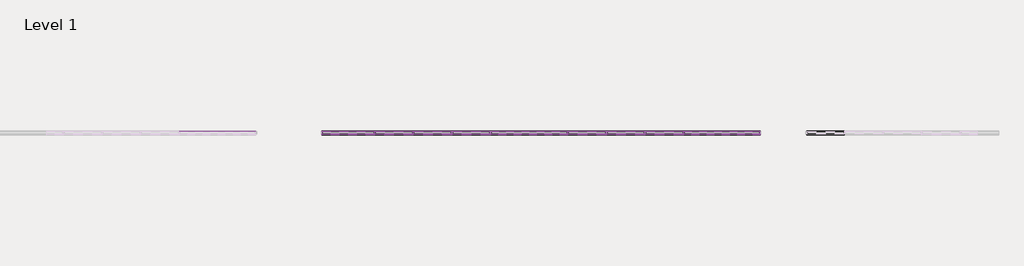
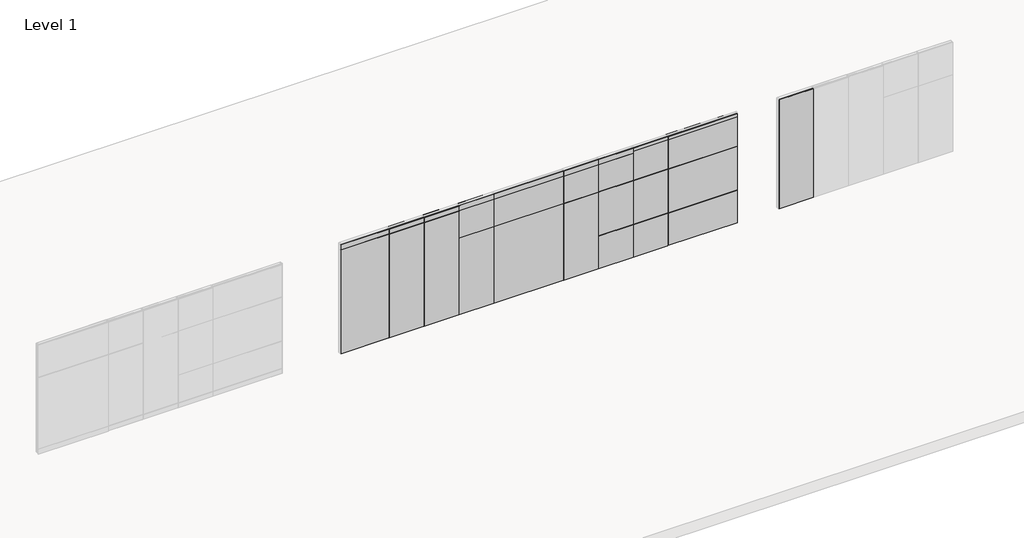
# One storey, part 8 of 22: 106 proxies.
"""IFC4 building model written with IfcOpenShell, lengths in millimetres."""

from ifc_helpers import new_model, si_unit, origin, place, context, project, spatial, transform, mapped, element, save
from components import fascia_teknion_ceiling_and_base_fpb1_33541465, fascia_teknion_ceiling_and_base_fpb1_b7746e3f, fascia_teknion_ceiling_and_base_fpb1_8b0997c1, fascia_teknion_ceiling_and_base_fpb1_fca0640a, fascia_teknion_ceiling_and_base_fpb1_086ac043, fascia_teknion_ceiling_and_base_fpc_82e6e8aa, fascia_teknion_ceiling_and_base_fpb1_658eb9e8, fascia_teknion_ceiling_and_base_fpb1_6ffdd3c4, fascia_teknion_ceiling_and_base_fpc_d1d4114e, fascia_teknion_ceiling_and_base_fpb1_9cc94717, frame_teknion_horizontal_rail_5872ae1a, frame_teknion_horizontal_rail_46ee653b, frame_teknion_horizontal_rail_3334b302, frame_teknion_horizontal_rail_5dd37d62, frame_teknion_horizontal_rail_fbfe6c54, full_c2ac7fb8, full_f94a2816, level_i_a4eb09b2, level_i_215115a4, level_ii_5838736d, level_ii_c8f04d20, level_ii_2f074b98, level_ii_82d1d981, level_iii_7086e34a, level_iii_17d9b208, monolithic_level_i_61e75e15, monolithic_level_i_c3871bc0, monolithic_level_i_05dcc295, monolithic_level_i_604a00d2, segmented_level_i_b619f2b0, segmented_level_i_812e5143, segmented_level_ii_95ed46a7, segmented_monolithic_level_i_26a9d159, segmented_monolithic_level_i_864a3625, segmented_monolithic_level_ii_77ebe4eb, segmented_monolithic_level_ii_a618ab00, working_wall_monolithic_level_i_ddfac440, working_wall_monolithic_level_i_dfc08b04, working_wall_monolithic_level_iii_353f8d2e, segmented_level_ii_6dac37f0

model = new_model("IFC4")

# Units and contexts
model_context = context("Model", 3, world=origin())
ifc_project = project(units=[si_unit("LENGTHUNIT", "METRE", prefix="MILLI")], contexts=[model_context])

# Site, building, storey
site = spatial("IfcSite", under=ifc_project)
building = spatial("IfcBuilding", under=site)
storey = spatial("IfcBuildingStorey", under=building, Name="Level 1", Elevation=0.0)

# Proxies
placement = place(None, origin())
fascia_teknion_ceiling_and_base_fpb1_shape = fascia_teknion_ceiling_and_base_fpb1_33541465(model_context)
element("IfcBuildingElementProxy", 1, Name="Fascia-Teknion-Ceiling_and_Base : FPB1", ObjectType="Fascia-Teknion-Ceiling_and_Base : FPB1", at=placement, inside=storey, context=model_context, shape_type="MappedRepresentation", body=[
    mapped(fascia_teknion_ceiling_and_base_fpb1_shape, transform((-52573.3738225, 1843.3402105, 15.875), x_axis=(1.0, 0.0, 0.0), y_axis=(0.0, 1.0, 0.0), z_axis=(0.0, 0.0, 1.0))),
])
fascia_teknion_ceiling_and_base_fpb1_2_shape = fascia_teknion_ceiling_and_base_fpb1_b7746e3f(model_context)
element("IfcBuildingElementProxy", 2, Name="Fascia-Teknion-Ceiling_and_Base : FPB1", ObjectType="Fascia-Teknion-Ceiling_and_Base : FPB1", at=placement, inside=storey, context=model_context, shape_type="MappedRepresentation", body=[
    mapped(fascia_teknion_ceiling_and_base_fpb1_2_shape, transform((-55025.7636663, 1843.3402105, 15.875), x_axis=(1.0, 0.0, 0.0), y_axis=(0.0, 1.0, 0.0), z_axis=(0.0, 0.0, 1.0))),
])
fascia_teknion_ceiling_and_base_fpb1_3_shape = fascia_teknion_ceiling_and_base_fpb1_8b0997c1(model_context)
element("IfcBuildingElementProxy", 3, Name="Fascia-Teknion-Ceiling_and_Base : FPB1", ObjectType="Fascia-Teknion-Ceiling_and_Base : FPB1", at=placement, inside=storey, context=model_context, shape_type="MappedRepresentation", body=[
    mapped(fascia_teknion_ceiling_and_base_fpb1_3_shape, transform((-63876.3738225, 1843.3402105, 15.875), x_axis=(1.0, 0.0, 0.0), y_axis=(0.0, 1.0, 0.0), z_axis=(0.0, 0.0, 1.0))),
])
fascia_teknion_ceiling_and_base_fpb1_4_shape = fascia_teknion_ceiling_and_base_fpb1_fca0640a(model_context)
element("IfcBuildingElementProxy", 4, Name="Fascia-Teknion-Ceiling_and_Base : FPB1", ObjectType="Fascia-Teknion-Ceiling_and_Base : FPB1", at=placement, inside=storey, context=model_context, shape_type="MappedRepresentation", body=[
    mapped(fascia_teknion_ceiling_and_base_fpb1_4_shape, transform((-62791.1687444, 1843.3402105, 15.875), x_axis=(1.0, 0.0, 0.0), y_axis=(0.0, 1.0, 0.0), z_axis=(0.0, 0.0, 1.0))),
])
element("IfcBuildingElementProxy", 5, Name="Fascia-Teknion-Ceiling_and_Base : FPB1", ObjectType="Fascia-Teknion-Ceiling_and_Base : FPB1", at=placement, inside=storey, context=model_context, shape_type="MappedRepresentation", body=[
    mapped(fascia_teknion_ceiling_and_base_fpb1_4_shape, transform((-61876.7687444, 1843.3402105, 15.875), x_axis=(1.0, 0.0, 0.0), y_axis=(0.0, 1.0, 0.0), z_axis=(0.0, 0.0, 1.0))),
])
element("IfcBuildingElementProxy", 6, Name="Fascia-Teknion-Ceiling_and_Base : FPB1", ObjectType="Fascia-Teknion-Ceiling_and_Base : FPB1", at=placement, inside=storey, context=model_context, shape_type="MappedRepresentation", body=[
    mapped(fascia_teknion_ceiling_and_base_fpb1_4_shape, transform((-60962.3687444, 1843.3402105, 15.875), x_axis=(1.0, 0.0, 0.0), y_axis=(0.0, 1.0, 0.0), z_axis=(0.0, 0.0, 1.0))),
])
element("IfcBuildingElementProxy", 7, Name="Fascia-Teknion-Ceiling_and_Base : FPB1", ObjectType="Fascia-Teknion-Ceiling_and_Base : FPB1", at=placement, inside=storey, context=model_context, shape_type="MappedRepresentation", body=[
    mapped(fascia_teknion_ceiling_and_base_fpb1_4_shape, transform((-58219.1687444, 1843.3402105, 15.875), x_axis=(1.0, 0.0, 0.0), y_axis=(0.0, 1.0, 0.0), z_axis=(0.0, 0.0, 1.0))),
])
element("IfcBuildingElementProxy", 8, Name="Fascia-Teknion-Ceiling_and_Base : FPB1", ObjectType="Fascia-Teknion-Ceiling_and_Base : FPB1", at=placement, inside=storey, context=model_context, shape_type="MappedRepresentation", body=[
    mapped(fascia_teknion_ceiling_and_base_fpb1_4_shape, transform((-57304.7687444, 1843.3402105, 15.875), x_axis=(1.0, 0.0, 0.0), y_axis=(0.0, 1.0, 0.0), z_axis=(0.0, 0.0, 1.0))),
])
element("IfcBuildingElementProxy", 9, Name="Fascia-Teknion-Ceiling_and_Base : FPB1", ObjectType="Fascia-Teknion-Ceiling_and_Base : FPB1", at=placement, inside=storey, context=model_context, shape_type="MappedRepresentation", body=[
    mapped(fascia_teknion_ceiling_and_base_fpb1_4_shape, transform((-56390.3687444, 1843.3402105, 15.875), x_axis=(1.0, 0.0, 0.0), y_axis=(0.0, 1.0, 0.0), z_axis=(0.0, 0.0, 1.0))),
])
fascia_teknion_ceiling_and_base_fpb1_5_shape = fascia_teknion_ceiling_and_base_fpb1_086ac043(model_context)
element("IfcBuildingElementProxy", 10, Name="Fascia-Teknion-Ceiling_and_Base : FPB1", ObjectType="Fascia-Teknion-Ceiling_and_Base : FPB1", at=placement, inside=storey, context=model_context, shape_type="MappedRepresentation", body=[
    mapped(fascia_teknion_ceiling_and_base_fpb1_5_shape, transform((-59590.7687444, 1843.3402105, 15.875), x_axis=(1.0, 0.0, 0.0), y_axis=(0.0, 1.0, 0.0), z_axis=(0.0, 0.0, 1.0))),
])
fascia_teknion_ceiling_and_base_fpc_shape = fascia_teknion_ceiling_and_base_fpc_82e6e8aa(model_context)
element("IfcBuildingElementProxy", 11, Name="Fascia-Teknion-Ceiling_and_Base : FPC", ObjectType="Fascia-Teknion-Ceiling_and_Base : FPC", at=placement, inside=storey, context=model_context, shape_type="MappedRepresentation", body=[
    mapped(fascia_teknion_ceiling_and_base_fpc_shape, transform((-63876.3738225, 1781.3642105, 2900.045), x_axis=(1.0, 0.0, 0.0), y_axis=(0.0, 1.0, 0.0), z_axis=(0.0, 0.0, 1.0))),
])
fascia_teknion_ceiling_and_base_fpb1_6_shape = fascia_teknion_ceiling_and_base_fpb1_658eb9e8(model_context)
element("IfcBuildingElementProxy", 12, Name="Fascia-Teknion-Ceiling_and_Base : FPC", ObjectType="Fascia-Teknion-Ceiling_and_Base : FPC", at=placement, inside=storey, context=model_context, shape_type="MappedRepresentation", body=[
    mapped(fascia_teknion_ceiling_and_base_fpb1_6_shape, transform((-62791.1687444, 1781.3642105, 2900.045), x_axis=(1.0, 0.0, 0.0), y_axis=(0.0, 1.0, 0.0), z_axis=(0.0, 0.0, 1.0))),
])
element("IfcBuildingElementProxy", 13, Name="Fascia-Teknion-Ceiling_and_Base : FPC", ObjectType="Fascia-Teknion-Ceiling_and_Base : FPC", at=placement, inside=storey, context=model_context, shape_type="MappedRepresentation", body=[
    mapped(fascia_teknion_ceiling_and_base_fpb1_6_shape, transform((-61876.7687444, 1781.3642105, 2900.045), x_axis=(1.0, 0.0, 0.0), y_axis=(0.0, 1.0, 0.0), z_axis=(0.0, 0.0, 1.0))),
])
element("IfcBuildingElementProxy", 14, Name="Fascia-Teknion-Ceiling_and_Base : FPC", ObjectType="Fascia-Teknion-Ceiling_and_Base : FPC", at=placement, inside=storey, context=model_context, shape_type="MappedRepresentation", body=[
    mapped(fascia_teknion_ceiling_and_base_fpb1_6_shape, transform((-60962.3687444, 1781.3642105, 2900.045), x_axis=(1.0, 0.0, 0.0), y_axis=(0.0, 1.0, 0.0), z_axis=(0.0, 0.0, 1.0))),
])
element("IfcBuildingElementProxy", 15, Name="Fascia-Teknion-Ceiling_and_Base : FPC", ObjectType="Fascia-Teknion-Ceiling_and_Base : FPC", at=placement, inside=storey, context=model_context, shape_type="MappedRepresentation", body=[
    mapped(fascia_teknion_ceiling_and_base_fpb1_6_shape, transform((-58219.1687444, 1781.3642105, 2900.045), x_axis=(1.0, 0.0, 0.0), y_axis=(0.0, 1.0, 0.0), z_axis=(0.0, 0.0, 1.0))),
])
element("IfcBuildingElementProxy", 16, Name="Fascia-Teknion-Ceiling_and_Base : FPC", ObjectType="Fascia-Teknion-Ceiling_and_Base : FPC", at=placement, inside=storey, context=model_context, shape_type="MappedRepresentation", body=[
    mapped(fascia_teknion_ceiling_and_base_fpb1_6_shape, transform((-57304.7687444, 1781.3642105, 2900.045), x_axis=(1.0, 0.0, 0.0), y_axis=(0.0, 1.0, 0.0), z_axis=(0.0, 0.0, 1.0))),
])
fascia_teknion_ceiling_and_base_fpb1_7_shape = fascia_teknion_ceiling_and_base_fpb1_6ffdd3c4(model_context)
element("IfcBuildingElementProxy", 17, Name="Fascia-Teknion-Ceiling_and_Base : FPC", ObjectType="Fascia-Teknion-Ceiling_and_Base : FPC", at=placement, inside=storey, context=model_context, shape_type="MappedRepresentation", body=[
    mapped(fascia_teknion_ceiling_and_base_fpb1_7_shape, transform((-59590.7687444, 1781.3642105, 2900.045), x_axis=(1.0, 0.0, 0.0), y_axis=(0.0, 1.0, 0.0), z_axis=(0.0, 0.0, 1.0))),
])
element("IfcBuildingElementProxy", 18, Name="Fascia-Teknion-Ceiling_and_Base : FPC", ObjectType="Fascia-Teknion-Ceiling_and_Base : FPC", at=placement, inside=storey, context=model_context, shape_type="MappedRepresentation", body=[
    mapped(fascia_teknion_ceiling_and_base_fpb1_2_shape, transform((-55025.7636663, 1843.3402105, 2950.845), x_axis=(1.0, 0.0, 0.0), y_axis=(0.0, 1.0, 0.0), z_axis=(0.0, 0.0, 1.0))),
])
fascia_teknion_ceiling_and_base_fpc_2_shape = fascia_teknion_ceiling_and_base_fpc_d1d4114e(model_context)
element("IfcBuildingElementProxy", 19, Name="Fascia-Teknion-Ceiling_and_Base : FPC", ObjectType="Fascia-Teknion-Ceiling_and_Base : FPC", at=placement, inside=storey, context=model_context, shape_type="MappedRepresentation", body=[
    mapped(fascia_teknion_ceiling_and_base_fpc_2_shape, transform((-55025.7636663, 1781.3642105, 2950.845), x_axis=(1.0, 0.0, 0.0), y_axis=(0.0, 1.0, 0.0), z_axis=(0.0, 0.0, 1.0))),
])
element("IfcBuildingElementProxy", 20, Name="Fascia-Teknion-Ceiling_and_Base : FPC", ObjectType="Fascia-Teknion-Ceiling_and_Base : FPC", at=placement, inside=storey, context=model_context, shape_type="MappedRepresentation", body=[
    mapped(fascia_teknion_ceiling_and_base_fpb1_3_shape, transform((-63876.3738225, 1843.3402105, 2950.845), x_axis=(1.0, 0.0, 0.0), y_axis=(0.0, 1.0, 0.0), z_axis=(0.0, 0.0, 1.0))),
])
element("IfcBuildingElementProxy", 21, Name="Fascia-Teknion-Ceiling_and_Base : FPC", ObjectType="Fascia-Teknion-Ceiling_and_Base : FPC", at=placement, inside=storey, context=model_context, shape_type="MappedRepresentation", body=[
    mapped(fascia_teknion_ceiling_and_base_fpb1_4_shape, transform((-62791.1687444, 1843.3402105, 2950.845), x_axis=(1.0, 0.0, 0.0), y_axis=(0.0, 1.0, 0.0), z_axis=(0.0, 0.0, 1.0))),
])
element("IfcBuildingElementProxy", 22, Name="Fascia-Teknion-Ceiling_and_Base : FPC", ObjectType="Fascia-Teknion-Ceiling_and_Base : FPC", at=placement, inside=storey, context=model_context, shape_type="MappedRepresentation", body=[
    mapped(fascia_teknion_ceiling_and_base_fpb1_4_shape, transform((-61876.7687444, 1843.3402105, 2950.845), x_axis=(1.0, 0.0, 0.0), y_axis=(0.0, 1.0, 0.0), z_axis=(0.0, 0.0, 1.0))),
])
element("IfcBuildingElementProxy", 23, Name="Fascia-Teknion-Ceiling_and_Base : FPC", ObjectType="Fascia-Teknion-Ceiling_and_Base : FPC", at=placement, inside=storey, context=model_context, shape_type="MappedRepresentation", body=[
    mapped(fascia_teknion_ceiling_and_base_fpb1_4_shape, transform((-60962.3687444, 1843.3402105, 2950.845), x_axis=(1.0, 0.0, 0.0), y_axis=(0.0, 1.0, 0.0), z_axis=(0.0, 0.0, 1.0))),
])
element("IfcBuildingElementProxy", 24, Name="Fascia-Teknion-Ceiling_and_Base : FPC", ObjectType="Fascia-Teknion-Ceiling_and_Base : FPC", at=placement, inside=storey, context=model_context, shape_type="MappedRepresentation", body=[
    mapped(fascia_teknion_ceiling_and_base_fpb1_4_shape, transform((-58219.1687444, 1843.3402105, 2950.845), x_axis=(1.0, 0.0, 0.0), y_axis=(0.0, 1.0, 0.0), z_axis=(0.0, 0.0, 1.0))),
])
element("IfcBuildingElementProxy", 25, Name="Fascia-Teknion-Ceiling_and_Base : FPC", ObjectType="Fascia-Teknion-Ceiling_and_Base : FPC", at=placement, inside=storey, context=model_context, shape_type="MappedRepresentation", body=[
    mapped(fascia_teknion_ceiling_and_base_fpb1_4_shape, transform((-57304.7687444, 1843.3402105, 2950.845), x_axis=(1.0, 0.0, 0.0), y_axis=(0.0, 1.0, 0.0), z_axis=(0.0, 0.0, 1.0))),
])
element("IfcBuildingElementProxy", 26, Name="Fascia-Teknion-Ceiling_and_Base : FPC", ObjectType="Fascia-Teknion-Ceiling_and_Base : FPC", at=placement, inside=storey, context=model_context, shape_type="MappedRepresentation", body=[
    mapped(fascia_teknion_ceiling_and_base_fpb1_4_shape, transform((-56390.3687444, 1843.3402105, 2950.845), x_axis=(1.0, 0.0, 0.0), y_axis=(0.0, 1.0, 0.0), z_axis=(0.0, 0.0, 1.0))),
])
element("IfcBuildingElementProxy", 27, Name="Fascia-Teknion-Ceiling_and_Base : FPC", ObjectType="Fascia-Teknion-Ceiling_and_Base : FPC", at=placement, inside=storey, context=model_context, shape_type="MappedRepresentation", body=[
    mapped(fascia_teknion_ceiling_and_base_fpb1_5_shape, transform((-59590.7687444, 1843.3402105, 2950.845), x_axis=(1.0, 0.0, 0.0), y_axis=(0.0, 1.0, 0.0), z_axis=(0.0, 0.0, 1.0))),
])
fascia_teknion_ceiling_and_base_fpb1_8_shape = fascia_teknion_ceiling_and_base_fpb1_9cc94717(model_context)
element("IfcBuildingElementProxy", 28, Name="Fascia-Teknion-Ceiling_and_Base : FPC", ObjectType="Fascia-Teknion-Ceiling_and_Base : FPC", at=placement, inside=storey, context=model_context, shape_type="MappedRepresentation", body=[
    mapped(fascia_teknion_ceiling_and_base_fpb1_8_shape, transform((-56390.3687444, 1781.3642105, 2950.845), x_axis=(1.0, 0.0, 0.0), y_axis=(0.0, 1.0, 0.0), z_axis=(0.0, 0.0, 1.0))),
])
frame_teknion_horizontal_rail_shape = frame_teknion_horizontal_rail_5872ae1a(model_context)
element("IfcBuildingElementProxy", 29, Name="Frame-Teknion-Horizontal_Rail : FPKK", ObjectType="Frame-Teknion-Horizontal_Rail : FPKK", at=placement, inside=storey, context=model_context, shape_type="MappedRepresentation", body=[
    mapped(frame_teknion_horizontal_rail_shape, transform((-52573.3738225, 1812.3522105, 151.257), x_axis=(1.0, 0.0, 0.0), y_axis=(0.0, 1.0, 0.0), z_axis=(0.0, 0.0, 1.0))),
])
frame_teknion_horizontal_rail_2_shape = frame_teknion_horizontal_rail_46ee653b(model_context)
element("IfcBuildingElementProxy", 30, Name="Frame-Teknion-Horizontal_Rail : FPKK", ObjectType="Frame-Teknion-Horizontal_Rail : FPKK", at=placement, inside=storey, context=model_context, shape_type="MappedRepresentation", body=[
    mapped(frame_teknion_horizontal_rail_2_shape, transform((-62791.1687444, 1812.3522105, 2136.775), x_axis=(1.0, 0.0, 0.0), y_axis=(0.0, 1.0, 0.0), z_axis=(0.0, 0.0, 1.0))),
])
element("IfcBuildingElementProxy", 31, Name="Frame-Teknion-Horizontal_Rail : FPKK", ObjectType="Frame-Teknion-Horizontal_Rail : FPKK", at=placement, inside=storey, context=model_context, shape_type="MappedRepresentation", body=[
    mapped(frame_teknion_horizontal_rail_2_shape, transform((-62791.1687444, 1812.3522105, 100.457), x_axis=(1.0, 0.0, 0.0), y_axis=(0.0, 1.0, 0.0), z_axis=(0.0, 0.0, 1.0))),
])
element("IfcBuildingElementProxy", 32, Name="Frame-Teknion-Horizontal_Rail : FPKK", ObjectType="Frame-Teknion-Horizontal_Rail : FPKK", at=placement, inside=storey, context=model_context, shape_type="MappedRepresentation", body=[
    mapped(frame_teknion_horizontal_rail_2_shape, transform((-62791.1687444, 1812.3522105, 2898.3305), x_axis=(1.0, 0.0, 0.0), y_axis=(0.0, 1.0, 0.0), z_axis=(0.0, 0.0, 1.0))),
])
element("IfcBuildingElementProxy", 33, Name="Frame-Teknion-Horizontal_Rail : FPKK", ObjectType="Frame-Teknion-Horizontal_Rail : FPKK", at=placement, inside=storey, context=model_context, shape_type="MappedRepresentation", body=[
    mapped(frame_teknion_horizontal_rail_2_shape, transform((-61876.7687444, 1812.3522105, 917.575), x_axis=(1.0, 0.0, 0.0), y_axis=(0.0, 1.0, 0.0), z_axis=(0.0, 0.0, 1.0))),
])
element("IfcBuildingElementProxy", 34, Name="Frame-Teknion-Horizontal_Rail : FPKK", ObjectType="Frame-Teknion-Horizontal_Rail : FPKK", at=placement, inside=storey, context=model_context, shape_type="MappedRepresentation", body=[
    mapped(frame_teknion_horizontal_rail_2_shape, transform((-61876.7687444, 1812.3522105, 2136.775), x_axis=(1.0, 0.0, 0.0), y_axis=(0.0, 1.0, 0.0), z_axis=(0.0, 0.0, 1.0))),
])
element("IfcBuildingElementProxy", 35, Name="Frame-Teknion-Horizontal_Rail : FPKK", ObjectType="Frame-Teknion-Horizontal_Rail : FPKK", at=placement, inside=storey, context=model_context, shape_type="MappedRepresentation", body=[
    mapped(frame_teknion_horizontal_rail_2_shape, transform((-61876.7687444, 1812.3522105, 100.457), x_axis=(1.0, 0.0, 0.0), y_axis=(0.0, 1.0, 0.0), z_axis=(0.0, 0.0, 1.0))),
])
element("IfcBuildingElementProxy", 36, Name="Frame-Teknion-Horizontal_Rail : FPKK", ObjectType="Frame-Teknion-Horizontal_Rail : FPKK", at=placement, inside=storey, context=model_context, shape_type="MappedRepresentation", body=[
    mapped(frame_teknion_horizontal_rail_2_shape, transform((-61876.7687444, 1812.3522105, 2898.3305), x_axis=(1.0, 0.0, 0.0), y_axis=(0.0, 1.0, 0.0), z_axis=(0.0, 0.0, 1.0))),
])
element("IfcBuildingElementProxy", 37, Name="Frame-Teknion-Horizontal_Rail : FPKK", ObjectType="Frame-Teknion-Horizontal_Rail : FPKK", at=placement, inside=storey, context=model_context, shape_type="MappedRepresentation", body=[
    mapped(frame_teknion_horizontal_rail_2_shape, transform((-60962.3687444, 1812.3522105, 2136.775), x_axis=(1.0, 0.0, 0.0), y_axis=(0.0, 1.0, 0.0), z_axis=(0.0, 0.0, 1.0))),
])
element("IfcBuildingElementProxy", 38, Name="Frame-Teknion-Horizontal_Rail : FPKK", ObjectType="Frame-Teknion-Horizontal_Rail : FPKK", at=placement, inside=storey, context=model_context, shape_type="MappedRepresentation", body=[
    mapped(frame_teknion_horizontal_rail_2_shape, transform((-60962.3687444, 1812.3522105, 100.457), x_axis=(1.0, 0.0, 0.0), y_axis=(0.0, 1.0, 0.0), z_axis=(0.0, 0.0, 1.0))),
])
element("IfcBuildingElementProxy", 39, Name="Frame-Teknion-Horizontal_Rail : FPKK", ObjectType="Frame-Teknion-Horizontal_Rail : FPKK", at=placement, inside=storey, context=model_context, shape_type="MappedRepresentation", body=[
    mapped(frame_teknion_horizontal_rail_2_shape, transform((-60962.3687444, 1812.3522105, 2898.3305), x_axis=(1.0, 0.0, 0.0), y_axis=(0.0, 1.0, 0.0), z_axis=(0.0, 0.0, 1.0))),
])
element("IfcBuildingElementProxy", 40, Name="Frame-Teknion-Horizontal_Rail : FPKK", ObjectType="Frame-Teknion-Horizontal_Rail : FPKK", at=placement, inside=storey, context=model_context, shape_type="MappedRepresentation", body=[
    mapped(frame_teknion_horizontal_rail_2_shape, transform((-58219.1687444, 1812.3522105, 917.575), x_axis=(1.0, 0.0, 0.0), y_axis=(0.0, 1.0, 0.0), z_axis=(0.0, 0.0, 1.0))),
])
element("IfcBuildingElementProxy", 41, Name="Frame-Teknion-Horizontal_Rail : FPKK", ObjectType="Frame-Teknion-Horizontal_Rail : FPKK", at=placement, inside=storey, context=model_context, shape_type="MappedRepresentation", body=[
    mapped(frame_teknion_horizontal_rail_2_shape, transform((-58219.1687444, 1812.3522105, 2136.775), x_axis=(1.0, 0.0, 0.0), y_axis=(0.0, 1.0, 0.0), z_axis=(0.0, 0.0, 1.0))),
])
element("IfcBuildingElementProxy", 42, Name="Frame-Teknion-Horizontal_Rail : FPKK", ObjectType="Frame-Teknion-Horizontal_Rail : FPKK", at=placement, inside=storey, context=model_context, shape_type="MappedRepresentation", body=[
    mapped(frame_teknion_horizontal_rail_2_shape, transform((-58219.1687444, 1812.3522105, 100.457), x_axis=(1.0, 0.0, 0.0), y_axis=(0.0, 1.0, 0.0), z_axis=(0.0, 0.0, 1.0))),
])
element("IfcBuildingElementProxy", 43, Name="Frame-Teknion-Horizontal_Rail : FPKK", ObjectType="Frame-Teknion-Horizontal_Rail : FPKK", at=placement, inside=storey, context=model_context, shape_type="MappedRepresentation", body=[
    mapped(frame_teknion_horizontal_rail_2_shape, transform((-58219.1687444, 1812.3522105, 2898.3305), x_axis=(1.0, 0.0, 0.0), y_axis=(0.0, 1.0, 0.0), z_axis=(0.0, 0.0, 1.0))),
])
element("IfcBuildingElementProxy", 44, Name="Frame-Teknion-Horizontal_Rail : FPKK", ObjectType="Frame-Teknion-Horizontal_Rail : FPKK", at=placement, inside=storey, context=model_context, shape_type="MappedRepresentation", body=[
    mapped(frame_teknion_horizontal_rail_2_shape, transform((-57304.7687444, 1812.3522105, 917.575), x_axis=(1.0, 0.0, 0.0), y_axis=(0.0, 1.0, 0.0), z_axis=(0.0, 0.0, 1.0))),
])
element("IfcBuildingElementProxy", 45, Name="Frame-Teknion-Horizontal_Rail : FPKK", ObjectType="Frame-Teknion-Horizontal_Rail : FPKK", at=placement, inside=storey, context=model_context, shape_type="MappedRepresentation", body=[
    mapped(frame_teknion_horizontal_rail_2_shape, transform((-57304.7687444, 1812.3522105, 2136.775), x_axis=(1.0, 0.0, 0.0), y_axis=(0.0, 1.0, 0.0), z_axis=(0.0, 0.0, 1.0))),
])
element("IfcBuildingElementProxy", 46, Name="Frame-Teknion-Horizontal_Rail : FPKK", ObjectType="Frame-Teknion-Horizontal_Rail : FPKK", at=placement, inside=storey, context=model_context, shape_type="MappedRepresentation", body=[
    mapped(frame_teknion_horizontal_rail_2_shape, transform((-57304.7687444, 1812.3522105, 100.457), x_axis=(1.0, 0.0, 0.0), y_axis=(0.0, 1.0, 0.0), z_axis=(0.0, 0.0, 1.0))),
])
element("IfcBuildingElementProxy", 47, Name="Frame-Teknion-Horizontal_Rail : FPKK", ObjectType="Frame-Teknion-Horizontal_Rail : FPKK", at=placement, inside=storey, context=model_context, shape_type="MappedRepresentation", body=[
    mapped(frame_teknion_horizontal_rail_2_shape, transform((-57304.7687444, 1812.3522105, 2898.3305), x_axis=(1.0, 0.0, 0.0), y_axis=(0.0, 1.0, 0.0), z_axis=(0.0, 0.0, 1.0))),
])
element("IfcBuildingElementProxy", 48, Name="Frame-Teknion-Horizontal_Rail : FPKK", ObjectType="Frame-Teknion-Horizontal_Rail : FPKK", at=placement, inside=storey, context=model_context, shape_type="MappedRepresentation", body=[
    mapped(frame_teknion_horizontal_rail_2_shape, transform((-56390.3687444, 1812.3522105, 917.575), x_axis=(1.0, 0.0, 0.0), y_axis=(0.0, 1.0, 0.0), z_axis=(0.0, 0.0, 1.0))),
])
element("IfcBuildingElementProxy", 49, Name="Frame-Teknion-Horizontal_Rail : FPKK", ObjectType="Frame-Teknion-Horizontal_Rail : FPKK", at=placement, inside=storey, context=model_context, shape_type="MappedRepresentation", body=[
    mapped(frame_teknion_horizontal_rail_2_shape, transform((-56390.3687444, 1812.3522105, 2136.775), x_axis=(1.0, 0.0, 0.0), y_axis=(0.0, 1.0, 0.0), z_axis=(0.0, 0.0, 1.0))),
])
element("IfcBuildingElementProxy", 50, Name="Frame-Teknion-Horizontal_Rail : FPKK", ObjectType="Frame-Teknion-Horizontal_Rail : FPKK", at=placement, inside=storey, context=model_context, shape_type="MappedRepresentation", body=[
    mapped(frame_teknion_horizontal_rail_2_shape, transform((-56390.3687444, 1812.3522105, 100.457), x_axis=(1.0, 0.0, 0.0), y_axis=(0.0, 1.0, 0.0), z_axis=(0.0, 0.0, 1.0))),
])
element("IfcBuildingElementProxy", 51, Name="Frame-Teknion-Horizontal_Rail : FPKK", ObjectType="Frame-Teknion-Horizontal_Rail : FPKK", at=placement, inside=storey, context=model_context, shape_type="MappedRepresentation", body=[
    mapped(frame_teknion_horizontal_rail_2_shape, transform((-62791.1687444, 1812.3522105, 2949.1305), x_axis=(1.0, 0.0, 0.0), y_axis=(0.0, 1.0, 0.0), z_axis=(0.0, 0.0, 1.0))),
])
element("IfcBuildingElementProxy", 52, Name="Frame-Teknion-Horizontal_Rail : FPKK", ObjectType="Frame-Teknion-Horizontal_Rail : FPKK", at=placement, inside=storey, context=model_context, shape_type="MappedRepresentation", body=[
    mapped(frame_teknion_horizontal_rail_2_shape, transform((-61876.7687444, 1812.3522105, 2949.1305), x_axis=(1.0, 0.0, 0.0), y_axis=(0.0, 1.0, 0.0), z_axis=(0.0, 0.0, 1.0))),
])
element("IfcBuildingElementProxy", 53, Name="Frame-Teknion-Horizontal_Rail : FPKK", ObjectType="Frame-Teknion-Horizontal_Rail : FPKK", at=placement, inside=storey, context=model_context, shape_type="MappedRepresentation", body=[
    mapped(frame_teknion_horizontal_rail_2_shape, transform((-60962.3687444, 1812.3522105, 2949.1305), x_axis=(1.0, 0.0, 0.0), y_axis=(0.0, 1.0, 0.0), z_axis=(0.0, 0.0, 1.0))),
])
element("IfcBuildingElementProxy", 54, Name="Frame-Teknion-Horizontal_Rail : FPKK", ObjectType="Frame-Teknion-Horizontal_Rail : FPKK", at=placement, inside=storey, context=model_context, shape_type="MappedRepresentation", body=[
    mapped(frame_teknion_horizontal_rail_2_shape, transform((-58219.1687444, 1812.3522105, 2949.1305), x_axis=(1.0, 0.0, 0.0), y_axis=(0.0, 1.0, 0.0), z_axis=(0.0, 0.0, 1.0))),
])
element("IfcBuildingElementProxy", 55, Name="Frame-Teknion-Horizontal_Rail : FPKK", ObjectType="Frame-Teknion-Horizontal_Rail : FPKK", at=placement, inside=storey, context=model_context, shape_type="MappedRepresentation", body=[
    mapped(frame_teknion_horizontal_rail_2_shape, transform((-57304.7687444, 1812.3522105, 2949.1305), x_axis=(1.0, 0.0, 0.0), y_axis=(0.0, 1.0, 0.0), z_axis=(0.0, 0.0, 1.0))),
])
element("IfcBuildingElementProxy", 56, Name="Frame-Teknion-Horizontal_Rail : FPKK", ObjectType="Frame-Teknion-Horizontal_Rail : FPKK", at=placement, inside=storey, context=model_context, shape_type="MappedRepresentation", body=[
    mapped(frame_teknion_horizontal_rail_2_shape, transform((-56390.3687444, 1812.3522105, 2949.1305), x_axis=(1.0, 0.0, 0.0), y_axis=(0.0, 1.0, 0.0), z_axis=(0.0, 0.0, 1.0))),
])
frame_teknion_horizontal_rail_3_shape = frame_teknion_horizontal_rail_3334b302(model_context)
element("IfcBuildingElementProxy", 57, Name="Frame-Teknion-Horizontal_Rail : FPKK", ObjectType="Frame-Teknion-Horizontal_Rail : FPKK", at=placement, inside=storey, context=model_context, shape_type="MappedRepresentation", body=[
    mapped(frame_teknion_horizontal_rail_3_shape, transform((-63876.3738225, 1812.3522105, 100.457), x_axis=(1.0, 0.0, 0.0), y_axis=(0.0, 1.0, 0.0), z_axis=(0.0, 0.0, 1.0))),
])
element("IfcBuildingElementProxy", 58, Name="Frame-Teknion-Horizontal_Rail : FPKK", ObjectType="Frame-Teknion-Horizontal_Rail : FPKK", at=placement, inside=storey, context=model_context, shape_type="MappedRepresentation", body=[
    mapped(frame_teknion_horizontal_rail_3_shape, transform((-63876.3738225, 1812.3522105, 2898.3305), x_axis=(1.0, 0.0, 0.0), y_axis=(0.0, 1.0, 0.0), z_axis=(0.0, 0.0, 1.0))),
])
element("IfcBuildingElementProxy", 59, Name="Frame-Teknion-Horizontal_Rail : FPKK", ObjectType="Frame-Teknion-Horizontal_Rail : FPKK", at=placement, inside=storey, context=model_context, shape_type="MappedRepresentation", body=[
    mapped(frame_teknion_horizontal_rail_3_shape, transform((-63876.3738225, 1812.3522105, 2949.1305), x_axis=(1.0, 0.0, 0.0), y_axis=(0.0, 1.0, 0.0), z_axis=(0.0, 0.0, 1.0))),
])
frame_teknion_horizontal_rail_4_shape = frame_teknion_horizontal_rail_5dd37d62(model_context)
element("IfcBuildingElementProxy", 60, Name="Frame-Teknion-Horizontal_Rail : FPKK", ObjectType="Frame-Teknion-Horizontal_Rail : FPKK", at=placement, inside=storey, context=model_context, shape_type="MappedRepresentation", body=[
    mapped(frame_teknion_horizontal_rail_4_shape, transform((-59590.7687444, 1812.3522105, 2136.775), x_axis=(1.0, 0.0, 0.0), y_axis=(0.0, 1.0, 0.0), z_axis=(0.0, 0.0, 1.0))),
])
element("IfcBuildingElementProxy", 61, Name="Frame-Teknion-Horizontal_Rail : FPKK", ObjectType="Frame-Teknion-Horizontal_Rail : FPKK", at=placement, inside=storey, context=model_context, shape_type="MappedRepresentation", body=[
    mapped(frame_teknion_horizontal_rail_4_shape, transform((-59590.7687444, 1812.3522105, 100.457), x_axis=(1.0, 0.0, 0.0), y_axis=(0.0, 1.0, 0.0), z_axis=(0.0, 0.0, 1.0))),
])
element("IfcBuildingElementProxy", 62, Name="Frame-Teknion-Horizontal_Rail : FPKK", ObjectType="Frame-Teknion-Horizontal_Rail : FPKK", at=placement, inside=storey, context=model_context, shape_type="MappedRepresentation", body=[
    mapped(frame_teknion_horizontal_rail_4_shape, transform((-59590.7687444, 1812.3522105, 2898.3305), x_axis=(1.0, 0.0, 0.0), y_axis=(0.0, 1.0, 0.0), z_axis=(0.0, 0.0, 1.0))),
])
element("IfcBuildingElementProxy", 63, Name="Frame-Teknion-Horizontal_Rail : FPKK", ObjectType="Frame-Teknion-Horizontal_Rail : FPKK", at=placement, inside=storey, context=model_context, shape_type="MappedRepresentation", body=[
    mapped(frame_teknion_horizontal_rail_4_shape, transform((-59590.7687444, 1812.3522105, 2949.1305), x_axis=(1.0, 0.0, 0.0), y_axis=(0.0, 1.0, 0.0), z_axis=(0.0, 0.0, 1.0))),
])
frame_teknion_horizontal_rail_5_shape = frame_teknion_horizontal_rail_fbfe6c54(model_context)
element("IfcBuildingElementProxy", 64, Name="Frame-Teknion-Horizontal_Rail : FPKK", ObjectType="Frame-Teknion-Horizontal_Rail : FPKK", at=placement, inside=storey, context=model_context, shape_type="MappedRepresentation", body=[
    mapped(frame_teknion_horizontal_rail_5_shape, transform((-55025.7636663, 1812.3522105, 917.575), x_axis=(1.0, 0.0, 0.0), y_axis=(0.0, 1.0, 0.0), z_axis=(0.0, 0.0, 1.0))),
])
element("IfcBuildingElementProxy", 65, Name="Frame-Teknion-Horizontal_Rail : FPKK", ObjectType="Frame-Teknion-Horizontal_Rail : FPKK", at=placement, inside=storey, context=model_context, shape_type="MappedRepresentation", body=[
    mapped(frame_teknion_horizontal_rail_5_shape, transform((-55025.7636663, 1812.3522105, 2136.775), x_axis=(1.0, 0.0, 0.0), y_axis=(0.0, 1.0, 0.0), z_axis=(0.0, 0.0, 1.0))),
])
element("IfcBuildingElementProxy", 66, Name="Frame-Teknion-Horizontal_Rail : FPKK", ObjectType="Frame-Teknion-Horizontal_Rail : FPKK", at=placement, inside=storey, context=model_context, shape_type="MappedRepresentation", body=[
    mapped(frame_teknion_horizontal_rail_5_shape, transform((-55025.7636663, 1812.3522105, 100.457), x_axis=(1.0, 0.0, 0.0), y_axis=(0.0, 1.0, 0.0), z_axis=(0.0, 0.0, 1.0))),
])
element("IfcBuildingElementProxy", 67, Name="Frame-Teknion-Horizontal_Rail : FPKK", ObjectType="Frame-Teknion-Horizontal_Rail : FPKK", at=placement, inside=storey, context=model_context, shape_type="MappedRepresentation", body=[
    mapped(frame_teknion_horizontal_rail_5_shape, transform((-55025.7636663, 1812.3522105, 2949.1305), x_axis=(1.0, 0.0, 0.0), y_axis=(0.0, 1.0, 0.0), z_axis=(0.0, 0.0, 1.0))),
])
full_shape = full_c2ac7fb8(model_context)
element("IfcBuildingElementProxy", 68, Name="Panel-Fascia-Teknion-Altos-Standard : Full", ObjectType="Panel-Fascia-Teknion-Altos-Standard : Full", at=placement, inside=storey, context=model_context, shape_type="MappedRepresentation", body=[
    mapped(full_shape, transform((-63876.3738225, 1852.8652105, 100.457), x_axis=(1.0, 0.0, 0.0), y_axis=(0.0, 1.0, 0.0), z_axis=(0.0, 0.0, 1.0))),
])
full_2_shape = full_f94a2816(model_context)
element("IfcBuildingElementProxy", 69, Name="Panel-Fascia-Teknion-Altos-Standard : Full", ObjectType="Panel-Fascia-Teknion-Altos-Standard : Full", at=placement, inside=storey, context=model_context, shape_type="MappedRepresentation", body=[
    mapped(full_2_shape, transform((-60962.3687444, 1852.8652105, 100.457), x_axis=(1.0, 0.0, 0.0), y_axis=(0.0, 1.0, 0.0), z_axis=(0.0, 0.0, 1.0))),
])
element("IfcBuildingElementProxy", 70, Name="Panel-Fascia-Teknion-Altos-Standard : Full", ObjectType="Panel-Fascia-Teknion-Altos-Standard : Full", at=placement, inside=storey, context=model_context, shape_type="MappedRepresentation", body=[
    mapped(full_2_shape, transform((-57304.7687444, 1852.8652105, 100.457), x_axis=(1.0, 0.0, 0.0), y_axis=(0.0, 1.0, 0.0), z_axis=(0.0, 0.0, 1.0))),
])
level_i_shape = level_i_a4eb09b2(model_context)
element("IfcBuildingElementProxy", 71, Name="Panel-Fascia-Teknion-Altos-Standard : Level I", ObjectType="Panel-Fascia-Teknion-Altos-Standard : Level I", at=placement, inside=storey, context=model_context, shape_type="MappedRepresentation", body=[
    mapped(level_i_shape, transform((-55025.7636663, 1852.8652105, 100.457), x_axis=(1.0, 0.0, 0.0), y_axis=(0.0, 1.0, 0.0), z_axis=(0.0, 0.0, 1.0))),
])
level_i_2_shape = level_i_215115a4(model_context)
element("IfcBuildingElementProxy", 72, Name="Panel-Fascia-Teknion-Altos-Standard : Level I", ObjectType="Panel-Fascia-Teknion-Altos-Standard : Level I", at=placement, inside=storey, context=model_context, shape_type="MappedRepresentation", body=[
    mapped(level_i_2_shape, transform((-61876.7687444, 1852.8652105, 100.457), x_axis=(1.0, 0.0, 0.0), y_axis=(0.0, 1.0, 0.0), z_axis=(0.0, 0.0, 1.0))),
])
element("IfcBuildingElementProxy", 73, Name="Panel-Fascia-Teknion-Altos-Standard : Level I", ObjectType="Panel-Fascia-Teknion-Altos-Standard : Level I", at=placement, inside=storey, context=model_context, shape_type="MappedRepresentation", body=[
    mapped(level_i_2_shape, transform((-58219.1687444, 1852.8652105, 100.457), x_axis=(1.0, 0.0, 0.0), y_axis=(0.0, 1.0, 0.0), z_axis=(0.0, 0.0, 1.0))),
])
level_ii_shape = level_ii_5838736d(model_context)
element("IfcBuildingElementProxy", 74, Name="Panel-Fascia-Teknion-Altos-Standard : Level II", ObjectType="Panel-Fascia-Teknion-Altos-Standard : Level II", at=placement, inside=storey, context=model_context, shape_type="MappedRepresentation", body=[
    mapped(level_ii_shape, transform((-61876.7687444, 1852.8652105, 917.575), x_axis=(1.0, 0.0, 0.0), y_axis=(0.0, 1.0, 0.0), z_axis=(0.0, 0.0, 1.0))),
])
element("IfcBuildingElementProxy", 75, Name="Panel-Fascia-Teknion-Altos-Standard : Level II", ObjectType="Panel-Fascia-Teknion-Altos-Standard : Level II", at=placement, inside=storey, context=model_context, shape_type="MappedRepresentation", body=[
    mapped(level_ii_shape, transform((-58219.1687444, 1852.8652105, 917.575), x_axis=(1.0, 0.0, 0.0), y_axis=(0.0, 1.0, 0.0), z_axis=(0.0, 0.0, 1.0))),
])
level_ii_2_shape = level_ii_c8f04d20(model_context)
element("IfcBuildingElementProxy", 76, Name="Panel-Fascia-Teknion-Altos-Standard : Level II", ObjectType="Panel-Fascia-Teknion-Altos-Standard : Level II", at=placement, inside=storey, context=model_context, shape_type="MappedRepresentation", body=[
    mapped(level_ii_2_shape, transform((-56390.3687444, 1771.8392105, 917.575), x_axis=(1.0, 0.0, 0.0), y_axis=(0.0, 1.0, 0.0), z_axis=(0.0, 0.0, 1.0))),
])
element("IfcBuildingElementProxy", 77, Name="Panel-Fascia-Teknion-Altos-Standard : Level II", ObjectType="Panel-Fascia-Teknion-Altos-Standard : Level II", at=placement, inside=storey, context=model_context, shape_type="MappedRepresentation", body=[
    mapped(level_ii_2_shape, transform((-57304.7687444, 1771.8392105, 917.575), x_axis=(1.0, 0.0, 0.0), y_axis=(0.0, 1.0, 0.0), z_axis=(0.0, 0.0, 1.0))),
])
level_ii_3_shape = level_ii_2f074b98(model_context)
element("IfcBuildingElementProxy", 78, Name="Panel-Fascia-Teknion-Altos-Standard : Level II", ObjectType="Panel-Fascia-Teknion-Altos-Standard : Level II", at=placement, inside=storey, context=model_context, shape_type="MappedRepresentation", body=[
    mapped(level_ii_3_shape, transform((-55025.7636663, 1771.8392105, 917.575), x_axis=(1.0, 0.0, 0.0), y_axis=(0.0, 1.0, 0.0), z_axis=(0.0, 0.0, 1.0))),
])
level_ii_4_shape = level_ii_82d1d981(model_context)
element("IfcBuildingElementProxy", 79, Name="Panel-Fascia-Teknion-Altos-Standard : Level II", ObjectType="Panel-Fascia-Teknion-Altos-Standard : Level II", at=placement, inside=storey, context=model_context, shape_type="MappedRepresentation", body=[
    mapped(level_ii_4_shape, transform((-55025.7636663, 1852.8652105, 917.575), x_axis=(1.0, 0.0, 0.0), y_axis=(0.0, 1.0, 0.0), z_axis=(0.0, 0.0, 1.0))),
])
level_iii_shape = level_iii_7086e34a(model_context)
element("IfcBuildingElementProxy", 80, Name="Panel-Fascia-Teknion-Altos-Standard : Level III", ObjectType="Panel-Fascia-Teknion-Altos-Standard : Level III", at=placement, inside=storey, context=model_context, shape_type="MappedRepresentation", body=[
    mapped(level_iii_shape, transform((-55025.7636663, 1852.8652105, 2136.775), x_axis=(1.0, 0.0, 0.0), y_axis=(0.0, 1.0, 0.0), z_axis=(0.0, 0.0, 1.0))),
])
element("IfcBuildingElementProxy", 81, Name="Panel-Fascia-Teknion-Altos-Standard : Level III", ObjectType="Panel-Fascia-Teknion-Altos-Standard : Level III", at=placement, inside=storey, context=model_context, shape_type="MappedRepresentation", body=[
    mapped(level_iii_shape, transform((-66963.7636663, 1852.8652105, 2136.775), x_axis=(1.0, 0.0, 0.0), y_axis=(0.0, 1.0, 0.0), z_axis=(0.0, 0.0, 1.0))),
])
level_iii_2_shape = level_iii_17d9b208(model_context)
element("IfcBuildingElementProxy", 82, Name="Panel-Fascia-Teknion-Altos-Standard : Level III", ObjectType="Panel-Fascia-Teknion-Altos-Standard : Level III", at=placement, inside=storey, context=model_context, shape_type="MappedRepresentation", body=[
    mapped(level_iii_2_shape, transform((-61876.7687444, 1852.8652105, 2136.775), x_axis=(1.0, 0.0, 0.0), y_axis=(0.0, 1.0, 0.0), z_axis=(0.0, 0.0, 1.0))),
])
element("IfcBuildingElementProxy", 83, Name="Panel-Fascia-Teknion-Altos-Standard : Level III", ObjectType="Panel-Fascia-Teknion-Altos-Standard : Level III", at=placement, inside=storey, context=model_context, shape_type="MappedRepresentation", body=[
    mapped(level_iii_2_shape, transform((-58219.1687444, 1852.8652105, 2136.775), x_axis=(1.0, 0.0, 0.0), y_axis=(0.0, 1.0, 0.0), z_axis=(0.0, 0.0, 1.0))),
])
monolithic_level_i_shape = monolithic_level_i_61e75e15(model_context)
element("IfcBuildingElementProxy", 84, Name="Panel-Fascia-Teknion-Altos-Standard : Monolithic Level I", ObjectType="Panel-Fascia-Teknion-Altos-Standard : Monolithic Level I", at=placement, inside=storey, context=model_context, shape_type="MappedRepresentation", body=[
    mapped(monolithic_level_i_shape, transform((-52573.3738225, 1771.8392105, 12.7), x_axis=(1.0, 0.0, 0.0), y_axis=(0.0, 1.0, 0.0), z_axis=(0.0, 0.0, 1.0))),
])
monolithic_level_i_2_shape = monolithic_level_i_c3871bc0(model_context)
element("IfcBuildingElementProxy", 85, Name="Panel-Fascia-Teknion-Altos-Standard : Monolithic Level I", ObjectType="Panel-Fascia-Teknion-Altos-Standard : Monolithic Level I", at=placement, inside=storey, context=model_context, shape_type="MappedRepresentation", body=[
    mapped(monolithic_level_i_2_shape, transform((-63876.3738225, 1771.8392105, 12.7), x_axis=(1.0, 0.0, 0.0), y_axis=(0.0, 1.0, 0.0), z_axis=(0.0, 0.0, 1.0))),
])
monolithic_level_i_3_shape = monolithic_level_i_05dcc295(model_context)
element("IfcBuildingElementProxy", 86, Name="Panel-Fascia-Teknion-Altos-Standard : Monolithic Level I", ObjectType="Panel-Fascia-Teknion-Altos-Standard : Monolithic Level I", at=placement, inside=storey, context=model_context, shape_type="MappedRepresentation", body=[
    mapped(monolithic_level_i_3_shape, transform((-52573.3738225, 1852.8652105, 151.257), x_axis=(1.0, 0.0, 0.0), y_axis=(0.0, 1.0, 0.0), z_axis=(0.0, 0.0, 1.0))),
])
monolithic_level_i_4_shape = monolithic_level_i_604a00d2(model_context)
element("IfcBuildingElementProxy", 87, Name="Panel-Fascia-Teknion-Altos-Standard : Monolithic Level I", ObjectType="Panel-Fascia-Teknion-Altos-Standard : Monolithic Level I", at=placement, inside=storey, context=model_context, shape_type="MappedRepresentation", body=[
    mapped(monolithic_level_i_4_shape, transform((-62791.1687444, 1771.8392105, 12.7), x_axis=(1.0, 0.0, 0.0), y_axis=(0.0, 1.0, 0.0), z_axis=(0.0, 0.0, 1.0))),
])
element("IfcBuildingElementProxy", 88, Name="Panel-Fascia-Teknion-Altos-Standard : Monolithic Level I", ObjectType="Panel-Fascia-Teknion-Altos-Standard : Monolithic Level I", at=placement, inside=storey, context=model_context, shape_type="MappedRepresentation", body=[
    mapped(monolithic_level_i_4_shape, transform((-61876.7687444, 1771.8392105, 12.7), x_axis=(1.0, 0.0, 0.0), y_axis=(0.0, 1.0, 0.0), z_axis=(0.0, 0.0, 1.0))),
])
segmented_level_i_shape = segmented_level_i_b619f2b0(model_context)
element("IfcBuildingElementProxy", 89, Name="Panel-Fascia-Teknion-Altos-Standard : Segmented Level I", ObjectType="Panel-Fascia-Teknion-Altos-Standard : Segmented Level I", at=placement, inside=storey, context=model_context, shape_type="MappedRepresentation", body=[
    mapped(segmented_level_i_shape, transform((-62791.1687444, 1852.8652105, 100.457), x_axis=(1.0, 0.0, 0.0), y_axis=(0.0, 1.0, 0.0), z_axis=(0.0, 0.0, 1.0))),
])
element("IfcBuildingElementProxy", 90, Name="Panel-Fascia-Teknion-Altos-Standard : Segmented Level I", ObjectType="Panel-Fascia-Teknion-Altos-Standard : Segmented Level I", at=placement, inside=storey, context=model_context, shape_type="MappedRepresentation", body=[
    mapped(segmented_level_i_shape, transform((-56390.3687444, 1852.8652105, 100.457), x_axis=(1.0, 0.0, 0.0), y_axis=(0.0, 1.0, 0.0), z_axis=(0.0, 0.0, 1.0))),
])
segmented_level_i_2_shape = segmented_level_i_812e5143(model_context)
element("IfcBuildingElementProxy", 91, Name="Panel-Fascia-Teknion-Altos-Standard : Segmented Level I", ObjectType="Panel-Fascia-Teknion-Altos-Standard : Segmented Level I", at=placement, inside=storey, context=model_context, shape_type="MappedRepresentation", body=[
    mapped(segmented_level_i_2_shape, transform((-59590.7687444, 1852.8652105, 100.457), x_axis=(1.0, 0.0, 0.0), y_axis=(0.0, 1.0, 0.0), z_axis=(0.0, 0.0, 1.0))),
])
element("IfcBuildingElementProxy", 92, Name="Panel-Fascia-Teknion-Altos-Standard : Segmented Level II", ObjectType="Panel-Fascia-Teknion-Altos-Standard : Segmented Level II", at=placement, inside=storey, context=model_context, shape_type="MappedRepresentation", body=[
    mapped(level_iii_2_shape, transform((-62791.1687444, 1852.8652105, 2136.775), x_axis=(1.0, 0.0, 0.0), y_axis=(0.0, 1.0, 0.0), z_axis=(0.0, 0.0, 1.0))),
])
element("IfcBuildingElementProxy", 93, Name="Panel-Fascia-Teknion-Altos-Standard : Segmented Level II", ObjectType="Panel-Fascia-Teknion-Altos-Standard : Segmented Level II", at=placement, inside=storey, context=model_context, shape_type="MappedRepresentation", body=[
    mapped(level_iii_2_shape, transform((-56390.3687444, 1852.8652105, 2136.775), x_axis=(1.0, 0.0, 0.0), y_axis=(0.0, 1.0, 0.0), z_axis=(0.0, 0.0, 1.0))),
])
segmented_level_ii_shape = segmented_level_ii_95ed46a7(model_context)
element("IfcBuildingElementProxy", 94, Name="Panel-Fascia-Teknion-Altos-Standard : Segmented Level II", ObjectType="Panel-Fascia-Teknion-Altos-Standard : Segmented Level II", at=placement, inside=storey, context=model_context, shape_type="MappedRepresentation", body=[
    mapped(segmented_level_ii_shape, transform((-59590.7687444, 1852.8652105, 2136.775), x_axis=(1.0, 0.0, 0.0), y_axis=(0.0, 1.0, 0.0), z_axis=(0.0, 0.0, 1.0))),
])
segmented_monolithic_level_i_shape = segmented_monolithic_level_i_26a9d159(model_context)
element("IfcBuildingElementProxy", 95, Name="Panel-Fascia-Teknion-Altos-Standard : Segmented Monolithic Level I", ObjectType="Panel-Fascia-Teknion-Altos-Standard : Segmented Monolithic Level I", at=placement, inside=storey, context=model_context, shape_type="MappedRepresentation", body=[
    mapped(segmented_monolithic_level_i_shape, transform((-58219.1687444, 1771.8392105, 12.7), x_axis=(1.0, 0.0, 0.0), y_axis=(0.0, 1.0, 0.0), z_axis=(0.0, 0.0, 1.0))),
])
element("IfcBuildingElementProxy", 96, Name="Panel-Fascia-Teknion-Altos-Standard : Segmented Monolithic Level I", ObjectType="Panel-Fascia-Teknion-Altos-Standard : Segmented Monolithic Level I", at=placement, inside=storey, context=model_context, shape_type="MappedRepresentation", body=[
    mapped(segmented_monolithic_level_i_shape, transform((-60962.3687444, 1771.8392105, 12.7), x_axis=(1.0, 0.0, 0.0), y_axis=(0.0, 1.0, 0.0), z_axis=(0.0, 0.0, 1.0))),
])
segmented_monolithic_level_i_2_shape = segmented_monolithic_level_i_864a3625(model_context)
element("IfcBuildingElementProxy", 97, Name="Panel-Fascia-Teknion-Altos-Standard : Segmented Monolithic Level I", ObjectType="Panel-Fascia-Teknion-Altos-Standard : Segmented Monolithic Level I", at=placement, inside=storey, context=model_context, shape_type="MappedRepresentation", body=[
    mapped(segmented_monolithic_level_i_2_shape, transform((-59590.7687444, 1771.8392105, 12.7), x_axis=(1.0, 0.0, 0.0), y_axis=(0.0, 1.0, 0.0), z_axis=(0.0, 0.0, 1.0))),
])
segmented_monolithic_level_ii_shape = segmented_monolithic_level_ii_77ebe4eb(model_context)
element("IfcBuildingElementProxy", 98, Name="Panel-Fascia-Teknion-Altos-Standard : Segmented Monolithic Level II", ObjectType="Panel-Fascia-Teknion-Altos-Standard : Segmented Monolithic Level II", at=placement, inside=storey, context=model_context, shape_type="MappedRepresentation", body=[
    mapped(segmented_monolithic_level_ii_shape, transform((-58219.1687444, 1771.8392105, 2136.775), x_axis=(1.0, 0.0, 0.0), y_axis=(0.0, 1.0, 0.0), z_axis=(0.0, 0.0, 1.0))),
])
element("IfcBuildingElementProxy", 99, Name="Panel-Fascia-Teknion-Altos-Standard : Segmented Monolithic Level II", ObjectType="Panel-Fascia-Teknion-Altos-Standard : Segmented Monolithic Level II", at=placement, inside=storey, context=model_context, shape_type="MappedRepresentation", body=[
    mapped(segmented_monolithic_level_ii_shape, transform((-60962.3687444, 1771.8392105, 2136.775), x_axis=(1.0, 0.0, 0.0), y_axis=(0.0, 1.0, 0.0), z_axis=(0.0, 0.0, 1.0))),
])
segmented_monolithic_level_ii_2_shape = segmented_monolithic_level_ii_a618ab00(model_context)
element("IfcBuildingElementProxy", 100, Name="Panel-Fascia-Teknion-Altos-Standard : Segmented Monolithic Level II", ObjectType="Panel-Fascia-Teknion-Altos-Standard : Segmented Monolithic Level II", at=placement, inside=storey, context=model_context, shape_type="MappedRepresentation", body=[
    mapped(segmented_monolithic_level_ii_2_shape, transform((-59590.7687444, 1771.8392105, 2136.775), x_axis=(1.0, 0.0, 0.0), y_axis=(0.0, 1.0, 0.0), z_axis=(0.0, 0.0, 1.0))),
])
working_wall_monolithic_level_i_shape = working_wall_monolithic_level_i_ddfac440(model_context)
element("IfcBuildingElementProxy", 101, Name="Panel-Fascia-Teknion-Altos-Standard : Working Wall Monolithic Level I", ObjectType="Panel-Fascia-Teknion-Altos-Standard : Working Wall Monolithic Level I", at=placement, inside=storey, context=model_context, shape_type="MappedRepresentation", body=[
    mapped(working_wall_monolithic_level_i_shape, transform((-56390.3687444, 1771.8392105, 12.7), x_axis=(1.0, 0.0, 0.0), y_axis=(0.0, 1.0, 0.0), z_axis=(0.0, 0.0, 1.0))),
])
element("IfcBuildingElementProxy", 102, Name="Panel-Fascia-Teknion-Altos-Standard : Working Wall Monolithic Level I", ObjectType="Panel-Fascia-Teknion-Altos-Standard : Working Wall Monolithic Level I", at=placement, inside=storey, context=model_context, shape_type="MappedRepresentation", body=[
    mapped(working_wall_monolithic_level_i_shape, transform((-57304.7687444, 1771.8392105, 12.7), x_axis=(1.0, 0.0, 0.0), y_axis=(0.0, 1.0, 0.0), z_axis=(0.0, 0.0, 1.0))),
])
working_wall_monolithic_level_i_2_shape = working_wall_monolithic_level_i_dfc08b04(model_context)
element("IfcBuildingElementProxy", 103, Name="Panel-Fascia-Teknion-Altos-Standard : Working Wall Monolithic Level I", ObjectType="Panel-Fascia-Teknion-Altos-Standard : Working Wall Monolithic Level I", at=placement, inside=storey, context=model_context, shape_type="MappedRepresentation", body=[
    mapped(working_wall_monolithic_level_i_2_shape, transform((-55025.7636663, 1771.8392105, 12.7), x_axis=(1.0, 0.0, 0.0), y_axis=(0.0, 1.0, 0.0), z_axis=(0.0, 0.0, 1.0))),
])
element("IfcBuildingElementProxy", 104, Name="Panel-Fascia-Teknion-Altos-Standard : Working Wall Monolithic Level III", ObjectType="Panel-Fascia-Teknion-Altos-Standard : Working Wall Monolithic Level III", at=placement, inside=storey, context=model_context, shape_type="MappedRepresentation", body=[
    mapped(segmented_monolithic_level_ii_shape, transform((-57304.7687444, 1771.8392105, 2136.775), x_axis=(1.0, 0.0, 0.0), y_axis=(0.0, 1.0, 0.0), z_axis=(0.0, 0.0, 1.0))),
])
working_wall_monolithic_level_iii_shape = working_wall_monolithic_level_iii_353f8d2e(model_context)
element("IfcBuildingElementProxy", 105, Name="Panel-Fascia-Teknion-Altos-Standard : Working Wall Monolithic Level III", ObjectType="Panel-Fascia-Teknion-Altos-Standard : Working Wall Monolithic Level III", at=placement, inside=storey, context=model_context, shape_type="MappedRepresentation", body=[
    mapped(working_wall_monolithic_level_iii_shape, transform((-55025.7636663, 1771.8392105, 2136.775), x_axis=(1.0, 0.0, 0.0), y_axis=(0.0, 1.0, 0.0), z_axis=(0.0, 0.0, 1.0))),
])
segmented_level_ii_2_shape = segmented_level_ii_6dac37f0(model_context)
element("IfcBuildingElementProxy", 106, Name="Panel-Fascia-Teknion-Altos-Standard : Working Wall Monolithic Level III", ObjectType="Panel-Fascia-Teknion-Altos-Standard : Working Wall Monolithic Level III", at=placement, inside=storey, context=model_context, shape_type="MappedRepresentation", body=[
    mapped(segmented_level_ii_2_shape, transform((-56390.3687444, 1771.8392105, 2136.775), x_axis=(1.0, 0.0, 0.0), y_axis=(0.0, 1.0, 0.0), z_axis=(0.0, 0.0, 1.0))),
])

save(model, "model.ifc")
